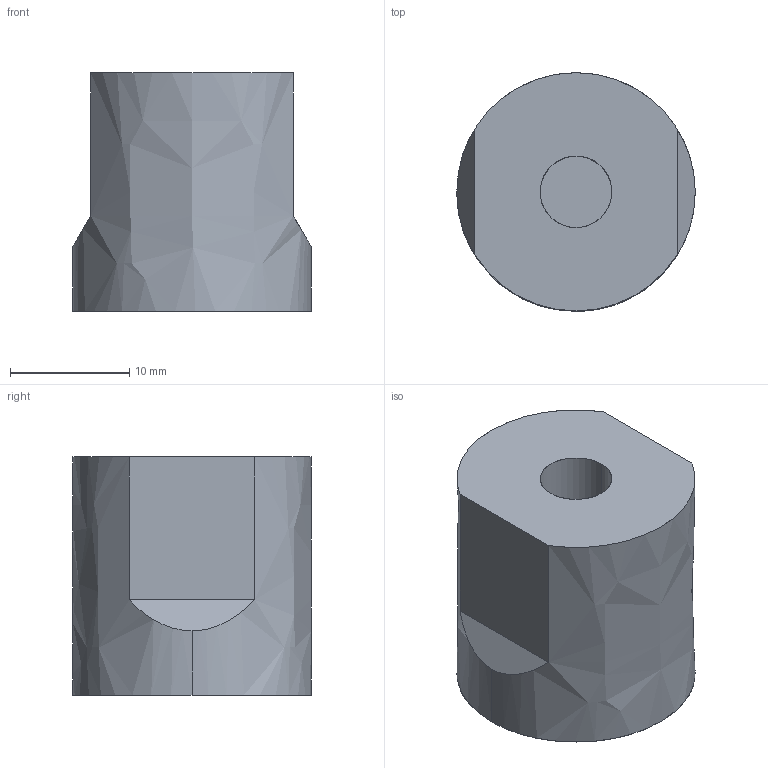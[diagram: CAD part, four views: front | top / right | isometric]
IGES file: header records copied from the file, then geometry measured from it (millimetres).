
Global section: file name: E:\UnigraphicsGraphicData\MISUMI_PRESS-PARTS\IGES\3d_sbvm20-20-r_00158_r00.igs; native system: NX V5.0; preprocessor: UGS NX IGES V5.0; author: MISUMI; date: 20110105.162511; units: millimetre
Bounding box: 20 x 20 x 20 mm (x, y, z)
Surface area: 2082.6 mm2 (no closed solid volume)
Topology: 0 solids, 0 shells, 11 faces, 72 edges, 72 vertices
Faces by surface type: bspline 11
